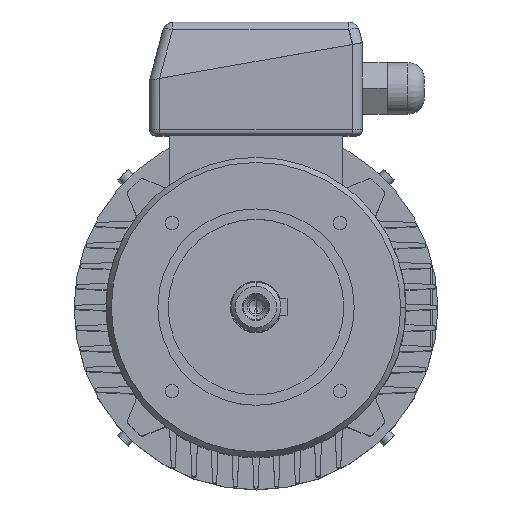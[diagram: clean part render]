
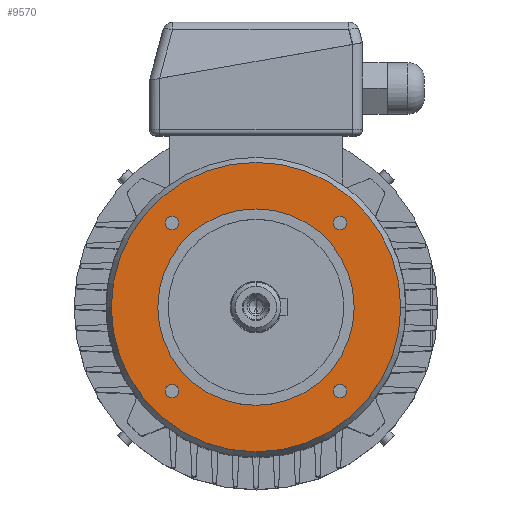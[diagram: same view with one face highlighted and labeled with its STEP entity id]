
A CAD part, top view. The second image highlights one B-rep face of the part: STEP entity #9570.
In plain terms, the highlighted planar face has unit normal (0, 0, 1).
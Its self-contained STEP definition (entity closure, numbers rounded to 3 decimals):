
#5 = VERTEX_POINT ( 'NONE', #9978 ) ;
#130 = VERTEX_POINT ( 'NONE', #10036 ) ;
#245 = EDGE_CURVE ( 'NONE', #6447, #5, #10083, .T. ) ;
#283 = ORIENTED_EDGE ( 'NONE', *, *, #7666, .F. ) ;
#370 = EDGE_CURVE ( 'NONE', #9746, #130, #10185, .T. ) ;
#747 = CIRCLE ( 'NONE', #748, 47.5 ) ;
#748 = AXIS2_PLACEMENT_3D ( 'NONE', #749, #750, #751 ) ;
#749 = CARTESIAN_POINT ( 'NONE',  ( 0., 0., 40. ) ) ;
#750 = DIRECTION ( 'NONE',  ( 0., 0., -1. ) ) ;
#751 = DIRECTION ( 'NONE',  ( 0., 1., 0. ) ) ;
#843 = VERTEX_POINT ( 'NONE', #10428 ) ;
#1033 = EDGE_LOOP ( 'NONE', ( #283, #7440 ) ) ;
#1265 = CARTESIAN_POINT ( 'NONE',  ( -43.909, 40.659, 40. ) ) ;
#1302 = ORIENTED_EDGE ( 'NONE', *, *, #7421, .F. ) ;
#1546 = CARTESIAN_POINT ( 'NONE',  ( 43.909, -40.659, 40. ) ) ;
#1734 = CIRCLE ( 'NONE', #1735, 3.25 ) ;
#1735 = AXIS2_PLACEMENT_3D ( 'NONE', #1740, #1741, #1742 ) ;
#1740 = CARTESIAN_POINT ( 'NONE',  ( 40.659, -40.659, 40. ) ) ;
#1741 = DIRECTION ( 'NONE',  ( 0., 0., 1. ) ) ;
#1742 = DIRECTION ( 'NONE',  ( 1., 0., 0. ) ) ;
#1856 = CARTESIAN_POINT ( 'NONE',  ( 37.409, 40.659, 40. ) ) ;
#1867 = EDGE_CURVE ( 'NONE', #7173, #7793, #10835, .T. ) ;
#2163 = CIRCLE ( 'NONE', #2164, 3.25 ) ;
#2164 = AXIS2_PLACEMENT_3D ( 'NONE', #2165, #2166, #2167 ) ;
#2165 = CARTESIAN_POINT ( 'NONE',  ( 40.659, 40.659, 40. ) ) ;
#2166 = DIRECTION ( 'NONE',  ( 0., 0., 1. ) ) ;
#2167 = DIRECTION ( 'NONE',  ( 1., 0., 0. ) ) ;
#2279 = ORIENTED_EDGE ( 'NONE', *, *, #1867, .F. ) ;
#2719 = CARTESIAN_POINT ( 'NONE',  ( 37.409, -40.659, 40. ) ) ;
#3876 = ORIENTED_EDGE ( 'NONE', *, *, #8837, .F. ) ;
#3935 = CARTESIAN_POINT ( 'NONE',  ( -37.409, -40.659, 40. ) ) ;
#4087 = CARTESIAN_POINT ( 'NONE',  ( 0., -70., 40. ) ) ;
#4181 = CIRCLE ( 'NONE', #4182, 3.25 ) ;
#4182 = AXIS2_PLACEMENT_3D ( 'NONE', #4183, #4184, #4185 ) ;
#4183 = CARTESIAN_POINT ( 'NONE',  ( -40.659, -40.659, 40. ) ) ;
#4184 = DIRECTION ( 'NONE',  ( 0., 0., 1. ) ) ;
#4185 = DIRECTION ( 'NONE',  ( 1., 0., 0. ) ) ;
#4337 = CARTESIAN_POINT ( 'NONE',  ( 0., 70., 40. ) ) ;
#4397 = CIRCLE ( 'NONE', #4398, 70. ) ;
#4398 = AXIS2_PLACEMENT_3D ( 'NONE', #4399, #4400, #4404 ) ;
#4399 = CARTESIAN_POINT ( 'NONE',  ( 0., 0., 40. ) ) ;
#4400 = DIRECTION ( 'NONE',  ( 0., 0., -1. ) ) ;
#4404 = DIRECTION ( 'NONE',  ( 0., 1., 0. ) ) ;
#4447 = ORIENTED_EDGE ( 'NONE', *, *, #8214, .F. ) ;
#5018 = EDGE_LOOP ( 'NONE', ( #4447, #3876 ) ) ;
#5280 = EDGE_CURVE ( 'NONE', #9243, #8986, #747, .T. ) ;
#5675 = CIRCLE ( 'NONE', #5676, 70. ) ;
#5676 = AXIS2_PLACEMENT_3D ( 'NONE', #5680, #5681, #5682 ) ;
#5680 = CARTESIAN_POINT ( 'NONE',  ( 0., 0., 40. ) ) ;
#5681 = DIRECTION ( 'NONE',  ( 0., 0., -1. ) ) ;
#5682 = DIRECTION ( 'NONE',  ( 0., 1., 0. ) ) ;
#5903 = CIRCLE ( 'NONE', #5904, 3.25 ) ;
#5904 = AXIS2_PLACEMENT_3D ( 'NONE', #5908, #5909, #5910 ) ;
#5908 = CARTESIAN_POINT ( 'NONE',  ( -40.659, -40.659, 40. ) ) ;
#5909 = DIRECTION ( 'NONE',  ( 0., 0., 1. ) ) ;
#5910 = DIRECTION ( 'NONE',  ( 1., 0., 0. ) ) ;
#5984 = CARTESIAN_POINT ( 'NONE',  ( 0., 47.5, 40. ) ) ;
#6039 = ORIENTED_EDGE ( 'NONE', *, *, #5280, .T. ) ;
#6129 = CIRCLE ( 'NONE', #6130, 47.5 ) ;
#6130 = AXIS2_PLACEMENT_3D ( 'NONE', #6131, #6132, #6133 ) ;
#6131 = CARTESIAN_POINT ( 'NONE',  ( 0., 0., 40. ) ) ;
#6132 = DIRECTION ( 'NONE',  ( 0., 0., -1. ) ) ;
#6133 = DIRECTION ( 'NONE',  ( 0., 1., 0. ) ) ;
#6447 = VERTEX_POINT ( 'NONE', #1265 ) ;
#6491 = CARTESIAN_POINT ( 'NONE',  ( 0., -47.5, 40. ) ) ;
#6611 = ORIENTED_EDGE ( 'NONE', *, *, #9043, .T. ) ;
#6695 = CIRCLE ( 'NONE', #6696, 3.25 ) ;
#6696 = AXIS2_PLACEMENT_3D ( 'NONE', #6697, #6698, #6699 ) ;
#6697 = CARTESIAN_POINT ( 'NONE',  ( -40.659, 40.659, 40. ) ) ;
#6698 = DIRECTION ( 'NONE',  ( 0., 0., 1. ) ) ;
#6699 = DIRECTION ( 'NONE',  ( 1., 0., 0. ) ) ;
#7169 = EDGE_LOOP ( 'NONE', ( #6611, #6039 ) ) ;
#7173 = VERTEX_POINT ( 'NONE', #1546 ) ;
#7181 = FACE_BOUND ( 'NONE', #9521, .T. ) ;
#7182 = FACE_BOUND ( 'NONE', #9150, .T. ) ;
#7183 = FACE_BOUND ( 'NONE', #8799, .T. ) ;
#7184 = FACE_BOUND ( 'NONE', #1033, .T. ) ;
#7185 = FACE_BOUND ( 'NONE', #7169, .T. ) ;
#7186 = FACE_OUTER_BOUND ( 'NONE', #5018, .T. ) ;
#7187 = PLANE ( 'NONE',  #7188 ) ;
#7188 = AXIS2_PLACEMENT_3D ( 'NONE', #7189, #7194, #7195 ) ;
#7189 = CARTESIAN_POINT ( 'NONE',  ( 0., 70., 40. ) ) ;
#7194 = DIRECTION ( 'NONE',  ( 0., 0., 1. ) ) ;
#7195 = DIRECTION ( 'NONE',  ( 0., -1., 0. ) ) ;
#7421 = EDGE_CURVE ( 'NONE', #7793, #7173, #1734, .T. ) ;
#7440 = ORIENTED_EDGE ( 'NONE', *, *, #370, .F. ) ;
#7666 = EDGE_CURVE ( 'NONE', #130, #9746, #2163, .T. ) ;
#7793 = VERTEX_POINT ( 'NONE', #2719 ) ;
#8126 = VERTEX_POINT ( 'NONE', #4087 ) ;
#8178 = VERTEX_POINT ( 'NONE', #4337 ) ;
#8214 = EDGE_CURVE ( 'NONE', #8178, #8126, #4397, .T. ) ;
#8799 = EDGE_LOOP ( 'NONE', ( #2279, #1302 ) ) ;
#8834 = ORIENTED_EDGE ( 'NONE', *, *, #11533, .F. ) ;
#8837 = EDGE_CURVE ( 'NONE', #8126, #8178, #5675, .T. ) ;
#8948 = EDGE_CURVE ( 'NONE', #11292, #843, #5903, .T. ) ;
#8986 = VERTEX_POINT ( 'NONE', #5984 ) ;
#9030 = ORIENTED_EDGE ( 'NONE', *, *, #8948, .F. ) ;
#9043 = EDGE_CURVE ( 'NONE', #8986, #9243, #6129, .T. ) ;
#9150 = EDGE_LOOP ( 'NONE', ( #9030, #8834 ) ) ;
#9199 = ORIENTED_EDGE ( 'NONE', *, *, #245, .F. ) ;
#9243 = VERTEX_POINT ( 'NONE', #6491 ) ;
#9317 = EDGE_CURVE ( 'NONE', #5, #6447, #6695, .T. ) ;
#9402 = ORIENTED_EDGE ( 'NONE', *, *, #9317, .F. ) ;
#9521 = EDGE_LOOP ( 'NONE', ( #9402, #9199 ) ) ;
#9570 = ADVANCED_FACE ( 'NONE', ( #7181, #7182, #7183, #7184, #7185, #7186 ), #7187, .T. ) ;
#9746 = VERTEX_POINT ( 'NONE', #1856 ) ;
#9978 = CARTESIAN_POINT ( 'NONE',  ( -37.409, 40.659, 40. ) ) ;
#10036 = CARTESIAN_POINT ( 'NONE',  ( 43.909, 40.659, 40. ) ) ;
#10083 = CIRCLE ( 'NONE', #10084, 3.25 ) ;
#10084 = AXIS2_PLACEMENT_3D ( 'NONE', #10085, #10090, #10091 ) ;
#10085 = CARTESIAN_POINT ( 'NONE',  ( -40.659, 40.659, 40. ) ) ;
#10090 = DIRECTION ( 'NONE',  ( 0., 0., 1. ) ) ;
#10091 = DIRECTION ( 'NONE',  ( 1., 0., 0. ) ) ;
#10185 = CIRCLE ( 'NONE', #10186, 3.25 ) ;
#10186 = AXIS2_PLACEMENT_3D ( 'NONE', #10190, #10191, #10192 ) ;
#10190 = CARTESIAN_POINT ( 'NONE',  ( 40.659, 40.659, 40. ) ) ;
#10191 = DIRECTION ( 'NONE',  ( 0., 0., 1. ) ) ;
#10192 = DIRECTION ( 'NONE',  ( 1., 0., 0. ) ) ;
#10428 = CARTESIAN_POINT ( 'NONE',  ( -43.909, -40.659, 40. ) ) ;
#10835 = CIRCLE ( 'NONE', #10836, 3.25 ) ;
#10836 = AXIS2_PLACEMENT_3D ( 'NONE', #10837, #10838, #10839 ) ;
#10837 = CARTESIAN_POINT ( 'NONE',  ( 40.659, -40.659, 40. ) ) ;
#10838 = DIRECTION ( 'NONE',  ( 0., 0., 1. ) ) ;
#10839 = DIRECTION ( 'NONE',  ( 1., 0., 0. ) ) ;
#11292 = VERTEX_POINT ( 'NONE', #3935 ) ;
#11533 = EDGE_CURVE ( 'NONE', #843, #11292, #4181, .T. ) ;
